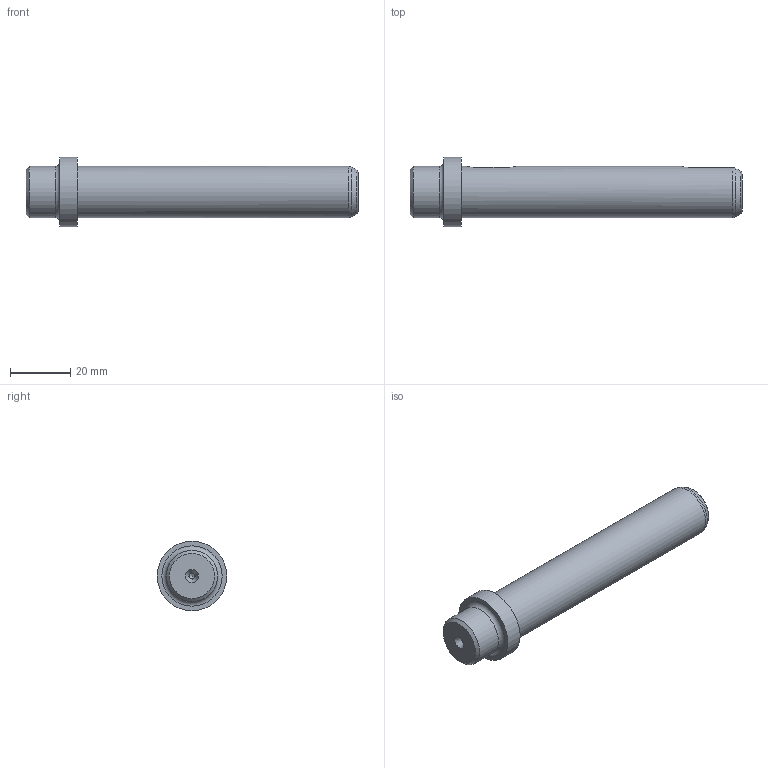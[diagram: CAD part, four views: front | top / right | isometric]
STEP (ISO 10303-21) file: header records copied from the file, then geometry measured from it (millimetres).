
FILE_DESCRIPTION(/* description */ (''),/* implementation_level */ '2;1');
FILE_NAME(/* name */ '',/* time_stamp */ '2026-07-02T16:37:11+09:00',/* author */ ('jhkim'),/* organization */ (''),/* preprocessor_version */ 'ST-DEVELOPER v20.1',/* originating_system */ 'Autodesk Inventor 2027',/* authorisation */ '');
FILE_SCHEMA (('AUTOMOTIVE_DESIGN { 1 0 10303 214 3 1 1 }'));
Length unit declared in the file: millimetre
Products named in the file (1): 축
Bounding box: 110 x 23 x 23 mm (x, y, z)
Volume: 25416.6 mm3; surface area: 6934.3 mm2
Topology: 1 solids, 1 shells, 27 faces, 65 edges, 43 vertices
Faces by surface type: plane 10, cylinder 8, cone 6, torus 3
Full cylindrical faces by diameter (mm): 2 x2, 17 x2, 23 x1
Entity records: 884 total; most frequent: CARTESIAN_POINT 216, DIRECTION 131, ORIENTED_EDGE 126, EDGE_CURVE 63, AXIS2_PLACEMENT_3D 52, VERTEX_POINT 43, EDGE_LOOP 32, FACE_OUTER_BOUND 27
